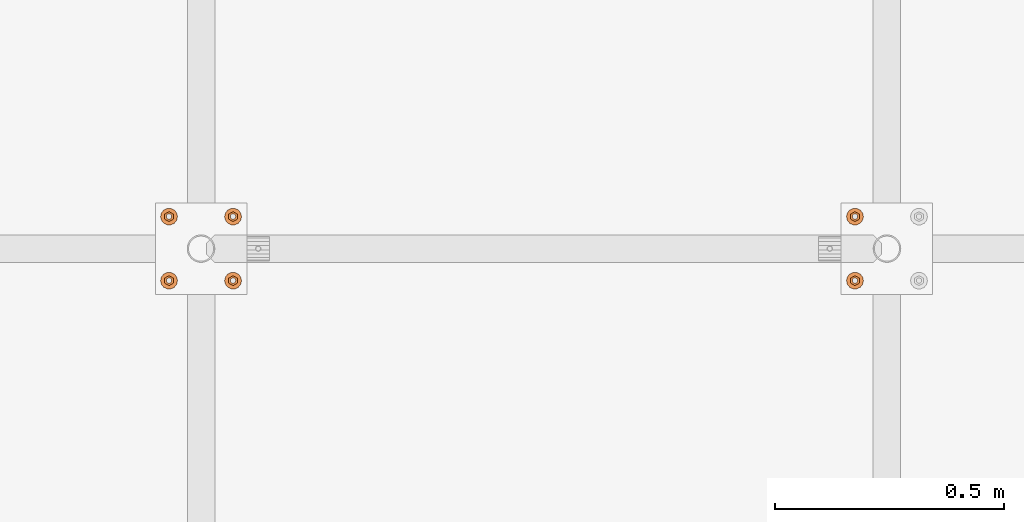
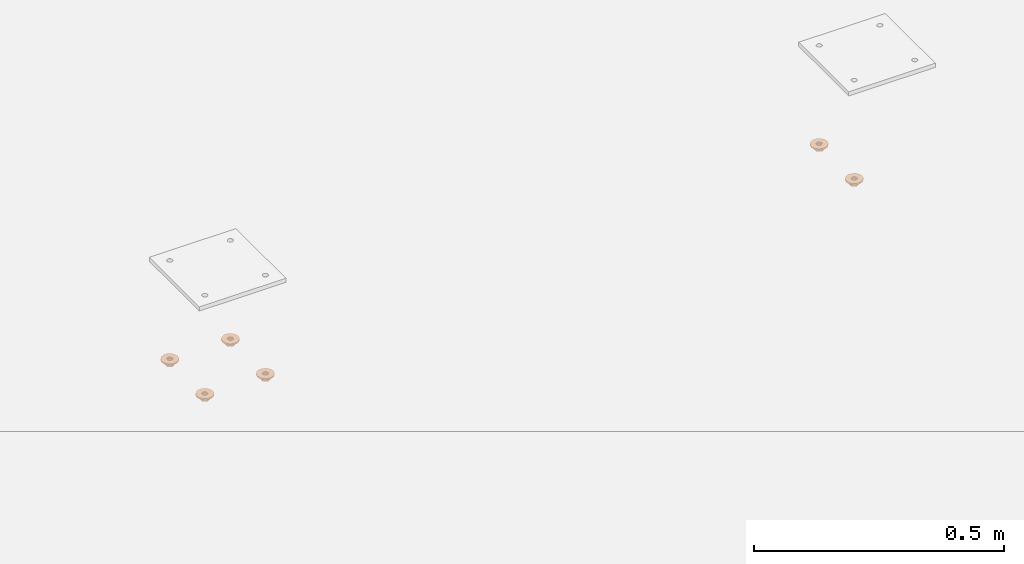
# One storey, part 26 of 30: 12 proxies.
"""IFC2X3 building model written with IfcOpenShell, lengths in millimetres."""

from ifc_helpers import new_model, entity, si_unit, converted_unit, origin_with_axes, place, context, project, spatial, faceted_brep, material, element, save


model = new_model("IFC2X3")

# Units and contexts
model_context = context("Model", 3, precision=1e-09, world=origin_with_axes())
ifc_project = project(units=[si_unit("LENGTHUNIT", "METRE", prefix="MILLI"), si_unit("AREAUNIT", "SQUARE_METRE"), si_unit("VOLUMEUNIT", "CUBIC_METRE"), converted_unit("PLANEANGLEUNIT", "DEGREE", entity("IfcPlaneAngleMeasure", 0.01745329), si_unit("PLANEANGLEUNIT", "RADIAN"), dimensions=[0, 0, 0, 0, 0, 0, 0])], contexts=[model_context])

# Site, building, storey
site_placement = place(None, origin_with_axes())
site = spatial("IfcSite", under=ifc_project, at=site_placement, Name="M?nsinger Stra?e, 81477 M?nchen", CompositionType="ELEMENT")
building_placement = place(site_placement, origin_with_axes())
building = spatial("IfcBuilding", under=site, at=building_placement, Name="Struktur 1", CompositionType="ELEMENT")
storey_placement = place(building_placement, origin_with_axes())
storey = spatial("IfcBuildingStorey", under=building, at=storey_placement, Name="Default Storey", CompositionType="ELEMENT", Elevation=0.0)

# Proxies
ifc_material = material(Name="Kein")
proxy_1_placement = place(None, origin_with_axes())
element("IfcBuildingElementProxy", 1, at=proxy_1_placement, inside=storey, material=ifc_material, ObjectType="-", context=model_context, shape_type="Brep", body=[
    faceted_brep([(7324.78055598, 3046.799376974, 6512.0), (7324.78055598, 3046.799376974, 6515.0), (7319.647193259, 3053.236410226, 6515.0), (7319.647193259, 3053.236410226, 6512.0), (7332.198480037, 3043.227093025, 6515.0), (7340.431754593, 3043.227093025, 6515.0), (7347.849678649, 3046.799376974, 6515.0), (7352.983041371, 3053.236410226, 6515.0), (7354.815117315, 3061.2632594, 6515.0), (7352.983041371, 3069.290108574, 6515.0), (7347.849678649, 3075.727141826, 6515.0), (7340.431754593, 3079.299425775, 6515.0), (7332.198480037, 3079.299425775, 6515.0), (7324.78055598, 3075.727141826, 6515.0), (7319.647193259, 3069.290108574, 6515.0), (7317.815117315, 3061.2632594, 6515.0), (7333.065117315, 3055.634094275, 6515.0), (7330.68595219, 3058.0132594, 6515.0), (7329.815117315, 3061.2632594, 6515.0), (7330.68595219, 3064.5132594, 6515.0), (7333.065117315, 3066.892424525, 6515.0), (7336.315117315, 3067.7632594, 6515.0), (7339.565117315, 3066.892424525, 6515.0), (7341.944282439, 3064.5132594, 6515.0), (7342.815117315, 3061.2632594, 6515.0), (7341.944282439, 3058.0132594, 6515.0), (7339.565117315, 3055.634094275, 6515.0), (7336.315117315, 3054.7632594, 6515.0), (7317.815117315, 3061.2632594, 6512.0), (7319.647193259, 3069.290108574, 6512.0), (7324.78055598, 3075.727141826, 6512.0), (7332.198480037, 3079.299425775, 6512.0), (7340.431754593, 3079.299425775, 6512.0), (7347.849678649, 3075.727141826, 6512.0), (7352.983041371, 3069.290108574, 6512.0), (7354.815117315, 3061.2632594, 6512.0), (7352.983041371, 3053.236410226, 6512.0), (7347.849678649, 3046.799376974, 6512.0), (7340.431754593, 3043.227093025, 6512.0), (7332.198480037, 3043.227093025, 6512.0), (7329.815117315, 3061.2632594, 6512.0), (7330.68595219, 3058.0132594, 6512.0), (7333.065117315, 3055.634094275, 6512.0), (7336.315117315, 3054.7632594, 6512.0), (7339.565117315, 3055.634094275, 6512.0), (7341.944282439, 3058.0132594, 6512.0), (7342.815117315, 3061.2632594, 6512.0), (7341.944282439, 3064.5132594, 6512.0), (7339.565117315, 3066.892424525, 6512.0), (7336.315117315, 3067.7632594, 6512.0), (7333.065117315, 3066.892424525, 6512.0), (7330.68595219, 3064.5132594, 6512.0)], [[[0, 1, 2, 3]], [[4, 5, 6, 7, 8, 9, 10, 11, 12, 13, 14, 15, 2, 1], [16, 17, 18, 19, 20, 21, 22, 23, 24, 25, 26, 27]], [[28, 29, 30, 31, 32, 33, 34, 35, 36, 37, 38, 39, 0, 3], [40, 41, 42, 43, 44, 45, 46, 47, 48, 49, 50, 51]], [[1, 0, 39, 4]], [[41, 17, 16, 42]], [[17, 41, 40, 18]], [[3, 2, 15, 28]], [[4, 39, 38, 5]], [[42, 16, 27, 43]], [[18, 40, 51, 19]], [[28, 15, 14, 29]], [[5, 38, 37, 6]], [[43, 27, 26, 44]], [[19, 51, 50, 20]], [[29, 14, 13, 30]], [[6, 37, 36, 7]], [[44, 26, 25, 45]], [[20, 50, 49, 21]], [[30, 13, 12, 31]], [[7, 36, 35, 8]], [[45, 25, 24, 46]], [[48, 22, 21, 49]], [[31, 12, 11, 32]], [[23, 47, 46, 24]], [[22, 48, 47, 23]], [[8, 35, 34, 9]], [[32, 11, 10, 33]], [[9, 34, 33, 10]]]),
])
proxy_2_placement = place(None, origin_with_axes())
element("IfcBuildingElementProxy", 2, at=proxy_2_placement, inside=storey, material=ifc_material, ObjectType="-", context=model_context, shape_type="Brep", body=[
    faceted_brep([(7330.315117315, 3061.2632594, 6502.0), (7330.315117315, 3061.2632594, 6512.0), (7331.118964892, 3058.2632594, 6512.0), (7331.118964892, 3058.2632594, 6502.0), (7333.315117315, 3056.067106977, 6512.0), (7333.315117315, 3056.067106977, 6502.0), (7331.118964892, 3064.2632594, 6502.0), (7331.118964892, 3064.2632594, 6512.0), (7326.815117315, 3066.748086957, 6512.0), (7326.815117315, 3055.778431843, 6512.0), (7336.315117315, 3050.293604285, 6512.0), (7345.815117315, 3055.778431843, 6512.0), (7345.815117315, 3066.748086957, 6512.0), (7336.315117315, 3072.232914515, 6512.0), (7333.315117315, 3066.459411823, 6512.0), (7336.315117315, 3067.2632594, 6512.0), (7339.315117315, 3066.459411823, 6512.0), (7341.511269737, 3064.2632594, 6512.0), (7342.315117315, 3061.2632594, 6512.0), (7341.511269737, 3058.2632594, 6512.0), (7339.315117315, 3056.067106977, 6512.0), (7336.315117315, 3055.2632594, 6512.0), (7326.815117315, 3066.748086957, 6502.0), (7336.315117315, 3072.232914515, 6502.0), (7345.815117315, 3066.748086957, 6502.0), (7345.815117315, 3055.778431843, 6502.0), (7336.315117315, 3050.293604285, 6502.0), (7326.815117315, 3055.778431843, 6502.0), (7333.315117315, 3066.459411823, 6502.0), (7336.315117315, 3055.2632594, 6502.0), (7336.315117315, 3067.2632594, 6502.0), (7339.315117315, 3056.067106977, 6502.0), (7339.315117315, 3066.459411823, 6502.0), (7341.511269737, 3058.2632594, 6502.0), (7341.511269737, 3064.2632594, 6502.0), (7342.315117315, 3061.2632594, 6502.0)], [[[0, 1, 2, 3]], [[3, 2, 4, 5]], [[1, 0, 6, 7]], [[8, 9, 10, 11, 12, 13], [7, 14, 15, 16, 17, 18, 19, 20, 21, 4, 2, 1]], [[22, 23, 24, 25, 26, 27]], [[7, 6, 28, 14]], [[22, 27, 9, 8]], [[5, 4, 21, 29]], [[10, 9, 27, 26]], [[14, 28, 30, 15]], [[23, 22, 8, 13]], [[29, 21, 20, 31]], [[11, 10, 26, 25]], [[15, 30, 32, 16]], [[24, 23, 13, 12]], [[31, 20, 19, 33]], [[25, 24, 12, 11]], [[16, 32, 34, 17]], [[33, 19, 18, 35]], [[17, 34, 35, 18]]]),
])
proxy_3_placement = place(None, origin_with_axes())
element("IfcBuildingElementProxy", 3, at=proxy_3_placement, inside=storey, material=ifc_material, ObjectType="-", context=model_context, shape_type="Brep", body=[
    faceted_brep([(7330.315117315, 2921.2632594, 6502.0), (7330.315117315, 2921.2632594, 6512.0), (7331.118964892, 2918.2632594, 6512.0), (7331.118964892, 2918.2632594, 6502.0), (7333.315117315, 2916.067106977, 6512.0), (7333.315117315, 2916.067106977, 6502.0), (7331.118964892, 2924.2632594, 6502.0), (7331.118964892, 2924.2632594, 6512.0), (7326.815117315, 2926.748086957, 6512.0), (7326.815117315, 2915.778431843, 6512.0), (7336.315117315, 2910.293604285, 6512.0), (7345.815117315, 2915.778431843, 6512.0), (7345.815117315, 2926.748086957, 6512.0), (7336.315117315, 2932.232914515, 6512.0), (7333.315117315, 2926.459411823, 6512.0), (7336.315117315, 2927.2632594, 6512.0), (7339.315117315, 2926.459411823, 6512.0), (7341.511269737, 2924.2632594, 6512.0), (7342.315117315, 2921.2632594, 6512.0), (7341.511269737, 2918.2632594, 6512.0), (7339.315117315, 2916.067106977, 6512.0), (7336.315117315, 2915.2632594, 6512.0), (7326.815117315, 2926.748086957, 6502.0), (7336.315117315, 2932.232914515, 6502.0), (7345.815117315, 2926.748086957, 6502.0), (7345.815117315, 2915.778431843, 6502.0), (7336.315117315, 2910.293604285, 6502.0), (7326.815117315, 2915.778431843, 6502.0), (7333.315117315, 2926.459411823, 6502.0), (7336.315117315, 2915.2632594, 6502.0), (7336.315117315, 2927.2632594, 6502.0), (7339.315117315, 2916.067106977, 6502.0), (7339.315117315, 2926.459411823, 6502.0), (7341.511269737, 2918.2632594, 6502.0), (7341.511269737, 2924.2632594, 6502.0), (7342.315117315, 2921.2632594, 6502.0)], [[[0, 1, 2, 3]], [[3, 2, 4, 5]], [[1, 0, 6, 7]], [[8, 9, 10, 11, 12, 13], [7, 14, 15, 16, 17, 18, 19, 20, 21, 4, 2, 1]], [[22, 23, 24, 25, 26, 27]], [[7, 6, 28, 14]], [[22, 27, 9, 8]], [[5, 4, 21, 29]], [[10, 9, 27, 26]], [[14, 28, 30, 15]], [[23, 22, 8, 13]], [[29, 21, 20, 31]], [[11, 10, 26, 25]], [[15, 30, 32, 16]], [[24, 23, 13, 12]], [[31, 20, 19, 33]], [[25, 24, 12, 11]], [[16, 32, 34, 17]], [[33, 19, 18, 35]], [[17, 34, 35, 18]]]),
])
proxy_4_placement = place(None, origin_with_axes())
element("IfcBuildingElementProxy", 4, at=proxy_4_placement, inside=storey, material=ifc_material, ObjectType="-", context=model_context, shape_type="Brep", body=[
    faceted_brep([(7324.78055598, 2906.799376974, 6512.0), (7324.78055598, 2906.799376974, 6515.0), (7319.647193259, 2913.236410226, 6515.0), (7319.647193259, 2913.236410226, 6512.0), (7332.198480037, 2903.227093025, 6515.0), (7340.431754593, 2903.227093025, 6515.0), (7347.849678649, 2906.799376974, 6515.0), (7352.983041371, 2913.236410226, 6515.0), (7354.815117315, 2921.2632594, 6515.0), (7352.983041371, 2929.290108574, 6515.0), (7347.849678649, 2935.727141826, 6515.0), (7340.431754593, 2939.299425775, 6515.0), (7332.198480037, 2939.299425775, 6515.0), (7324.78055598, 2935.727141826, 6515.0), (7319.647193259, 2929.290108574, 6515.0), (7317.815117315, 2921.2632594, 6515.0), (7333.065117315, 2915.634094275, 6515.0), (7330.68595219, 2918.0132594, 6515.0), (7329.815117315, 2921.2632594, 6515.0), (7330.68595219, 2924.5132594, 6515.0), (7333.065117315, 2926.892424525, 6515.0), (7336.315117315, 2927.7632594, 6515.0), (7339.565117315, 2926.892424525, 6515.0), (7341.944282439, 2924.5132594, 6515.0), (7342.815117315, 2921.2632594, 6515.0), (7341.944282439, 2918.0132594, 6515.0), (7339.565117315, 2915.634094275, 6515.0), (7336.315117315, 2914.7632594, 6515.0), (7317.815117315, 2921.2632594, 6512.0), (7319.647193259, 2929.290108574, 6512.0), (7324.78055598, 2935.727141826, 6512.0), (7332.198480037, 2939.299425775, 6512.0), (7340.431754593, 2939.299425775, 6512.0), (7347.849678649, 2935.727141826, 6512.0), (7352.983041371, 2929.290108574, 6512.0), (7354.815117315, 2921.2632594, 6512.0), (7352.983041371, 2913.236410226, 6512.0), (7347.849678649, 2906.799376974, 6512.0), (7340.431754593, 2903.227093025, 6512.0), (7332.198480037, 2903.227093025, 6512.0), (7329.815117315, 2921.2632594, 6512.0), (7330.68595219, 2918.0132594, 6512.0), (7333.065117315, 2915.634094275, 6512.0), (7336.315117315, 2914.7632594, 6512.0), (7339.565117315, 2915.634094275, 6512.0), (7341.944282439, 2918.0132594, 6512.0), (7342.815117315, 2921.2632594, 6512.0), (7341.944282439, 2924.5132594, 6512.0), (7339.565117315, 2926.892424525, 6512.0), (7336.315117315, 2927.7632594, 6512.0), (7333.065117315, 2926.892424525, 6512.0), (7330.68595219, 2924.5132594, 6512.0)], [[[0, 1, 2, 3]], [[4, 5, 6, 7, 8, 9, 10, 11, 12, 13, 14, 15, 2, 1], [16, 17, 18, 19, 20, 21, 22, 23, 24, 25, 26, 27]], [[28, 29, 30, 31, 32, 33, 34, 35, 36, 37, 38, 39, 0, 3], [40, 41, 42, 43, 44, 45, 46, 47, 48, 49, 50, 51]], [[1, 0, 39, 4]], [[41, 17, 16, 42]], [[17, 41, 40, 18]], [[3, 2, 15, 28]], [[4, 39, 38, 5]], [[42, 16, 27, 43]], [[18, 40, 51, 19]], [[28, 15, 14, 29]], [[5, 38, 37, 6]], [[43, 27, 26, 44]], [[19, 51, 50, 20]], [[29, 14, 13, 30]], [[6, 37, 36, 7]], [[44, 26, 25, 45]], [[20, 50, 49, 21]], [[30, 13, 12, 31]], [[7, 36, 35, 8]], [[45, 25, 24, 46]], [[48, 22, 21, 49]], [[31, 12, 11, 32]], [[23, 47, 46, 24]], [[22, 48, 47, 23]], [[8, 35, 34, 9]], [[32, 11, 10, 33]], [[9, 34, 33, 10]]]),
])
proxy_5_placement = place(None, origin_with_axes())
element("IfcBuildingElementProxy", 5, at=proxy_5_placement, inside=storey, material=ifc_material, ObjectType="-", context=model_context, shape_type="Brep", body=[
    faceted_brep([(5824.78055598, 3046.799376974, 6512.0), (5824.78055598, 3046.799376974, 6515.0), (5819.647193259, 3053.236410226, 6515.0), (5819.647193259, 3053.236410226, 6512.0), (5832.198480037, 3043.227093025, 6515.0), (5840.431754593, 3043.227093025, 6515.0), (5847.849678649, 3046.799376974, 6515.0), (5852.983041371, 3053.236410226, 6515.0), (5854.815117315, 3061.2632594, 6515.0), (5852.983041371, 3069.290108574, 6515.0), (5847.849678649, 3075.727141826, 6515.0), (5840.431754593, 3079.299425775, 6515.0), (5832.198480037, 3079.299425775, 6515.0), (5824.78055598, 3075.727141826, 6515.0), (5819.647193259, 3069.290108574, 6515.0), (5817.815117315, 3061.2632594, 6515.0), (5833.065117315, 3055.634094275, 6515.0), (5830.68595219, 3058.0132594, 6515.0), (5829.815117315, 3061.2632594, 6515.0), (5830.68595219, 3064.5132594, 6515.0), (5833.065117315, 3066.892424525, 6515.0), (5836.315117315, 3067.7632594, 6515.0), (5839.565117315, 3066.892424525, 6515.0), (5841.944282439, 3064.5132594, 6515.0), (5842.815117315, 3061.2632594, 6515.0), (5841.944282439, 3058.0132594, 6515.0), (5839.565117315, 3055.634094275, 6515.0), (5836.315117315, 3054.7632594, 6515.0), (5817.815117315, 3061.2632594, 6512.0), (5819.647193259, 3069.290108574, 6512.0), (5824.78055598, 3075.727141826, 6512.0), (5832.198480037, 3079.299425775, 6512.0), (5840.431754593, 3079.299425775, 6512.0), (5847.849678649, 3075.727141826, 6512.0), (5852.983041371, 3069.290108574, 6512.0), (5854.815117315, 3061.2632594, 6512.0), (5852.983041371, 3053.236410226, 6512.0), (5847.849678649, 3046.799376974, 6512.0), (5840.431754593, 3043.227093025, 6512.0), (5832.198480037, 3043.227093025, 6512.0), (5829.815117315, 3061.2632594, 6512.0), (5830.68595219, 3058.0132594, 6512.0), (5833.065117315, 3055.634094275, 6512.0), (5836.315117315, 3054.7632594, 6512.0), (5839.565117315, 3055.634094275, 6512.0), (5841.944282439, 3058.0132594, 6512.0), (5842.815117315, 3061.2632594, 6512.0), (5841.944282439, 3064.5132594, 6512.0), (5839.565117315, 3066.892424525, 6512.0), (5836.315117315, 3067.7632594, 6512.0), (5833.065117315, 3066.892424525, 6512.0), (5830.68595219, 3064.5132594, 6512.0)], [[[0, 1, 2, 3]], [[4, 5, 6, 7, 8, 9, 10, 11, 12, 13, 14, 15, 2, 1], [16, 17, 18, 19, 20, 21, 22, 23, 24, 25, 26, 27]], [[28, 29, 30, 31, 32, 33, 34, 35, 36, 37, 38, 39, 0, 3], [40, 41, 42, 43, 44, 45, 46, 47, 48, 49, 50, 51]], [[1, 0, 39, 4]], [[41, 17, 16, 42]], [[17, 41, 40, 18]], [[3, 2, 15, 28]], [[4, 39, 38, 5]], [[42, 16, 27, 43]], [[18, 40, 51, 19]], [[28, 15, 14, 29]], [[5, 38, 37, 6]], [[43, 27, 26, 44]], [[19, 51, 50, 20]], [[29, 14, 13, 30]], [[6, 37, 36, 7]], [[44, 26, 25, 45]], [[20, 50, 49, 21]], [[30, 13, 12, 31]], [[7, 36, 35, 8]], [[45, 25, 24, 46]], [[48, 22, 21, 49]], [[31, 12, 11, 32]], [[23, 47, 46, 24]], [[22, 48, 47, 23]], [[8, 35, 34, 9]], [[32, 11, 10, 33]], [[9, 34, 33, 10]]]),
])
proxy_6_placement = place(None, origin_with_axes())
element("IfcBuildingElementProxy", 6, at=proxy_6_placement, inside=storey, material=ifc_material, ObjectType="-", context=model_context, shape_type="Brep", body=[
    faceted_brep([(5830.315117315, 3061.2632594, 6502.0), (5830.315117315, 3061.2632594, 6512.0), (5831.118964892, 3058.2632594, 6512.0), (5831.118964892, 3058.2632594, 6502.0), (5833.315117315, 3056.067106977, 6512.0), (5833.315117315, 3056.067106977, 6502.0), (5831.118964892, 3064.2632594, 6502.0), (5831.118964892, 3064.2632594, 6512.0), (5826.815117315, 3066.748086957, 6512.0), (5826.815117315, 3055.778431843, 6512.0), (5836.315117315, 3050.293604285, 6512.0), (5845.815117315, 3055.778431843, 6512.0), (5845.815117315, 3066.748086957, 6512.0), (5836.315117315, 3072.232914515, 6512.0), (5833.315117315, 3066.459411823, 6512.0), (5836.315117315, 3067.2632594, 6512.0), (5839.315117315, 3066.459411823, 6512.0), (5841.511269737, 3064.2632594, 6512.0), (5842.315117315, 3061.2632594, 6512.0), (5841.511269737, 3058.2632594, 6512.0), (5839.315117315, 3056.067106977, 6512.0), (5836.315117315, 3055.2632594, 6512.0), (5826.815117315, 3066.748086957, 6502.0), (5836.315117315, 3072.232914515, 6502.0), (5845.815117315, 3066.748086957, 6502.0), (5845.815117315, 3055.778431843, 6502.0), (5836.315117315, 3050.293604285, 6502.0), (5826.815117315, 3055.778431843, 6502.0), (5833.315117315, 3066.459411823, 6502.0), (5836.315117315, 3055.2632594, 6502.0), (5836.315117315, 3067.2632594, 6502.0), (5839.315117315, 3056.067106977, 6502.0), (5839.315117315, 3066.459411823, 6502.0), (5841.511269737, 3058.2632594, 6502.0), (5841.511269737, 3064.2632594, 6502.0), (5842.315117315, 3061.2632594, 6502.0)], [[[0, 1, 2, 3]], [[3, 2, 4, 5]], [[1, 0, 6, 7]], [[8, 9, 10, 11, 12, 13], [7, 14, 15, 16, 17, 18, 19, 20, 21, 4, 2, 1]], [[22, 23, 24, 25, 26, 27]], [[7, 6, 28, 14]], [[22, 27, 9, 8]], [[5, 4, 21, 29]], [[10, 9, 27, 26]], [[14, 28, 30, 15]], [[23, 22, 8, 13]], [[29, 21, 20, 31]], [[11, 10, 26, 25]], [[15, 30, 32, 16]], [[24, 23, 13, 12]], [[31, 20, 19, 33]], [[25, 24, 12, 11]], [[16, 32, 34, 17]], [[33, 19, 18, 35]], [[17, 34, 35, 18]]]),
])
proxy_7_placement = place(None, origin_with_axes())
element("IfcBuildingElementProxy", 7, at=proxy_7_placement, inside=storey, material=ifc_material, ObjectType="-", context=model_context, shape_type="Brep", body=[
    faceted_brep([(5970.315117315, 3061.2632594, 6502.0), (5970.315117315, 3061.2632594, 6512.0), (5971.118964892, 3058.2632594, 6512.0), (5971.118964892, 3058.2632594, 6502.0), (5973.315117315, 3056.067106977, 6512.0), (5973.315117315, 3056.067106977, 6502.0), (5971.118964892, 3064.2632594, 6502.0), (5971.118964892, 3064.2632594, 6512.0), (5966.815117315, 3066.748086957, 6512.0), (5966.815117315, 3055.778431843, 6512.0), (5976.315117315, 3050.293604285, 6512.0), (5985.815117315, 3055.778431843, 6512.0), (5985.815117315, 3066.748086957, 6512.0), (5976.315117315, 3072.232914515, 6512.0), (5973.315117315, 3066.459411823, 6512.0), (5976.315117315, 3067.2632594, 6512.0), (5979.315117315, 3066.459411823, 6512.0), (5981.511269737, 3064.2632594, 6512.0), (5982.315117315, 3061.2632594, 6512.0), (5981.511269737, 3058.2632594, 6512.0), (5979.315117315, 3056.067106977, 6512.0), (5976.315117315, 3055.2632594, 6512.0), (5966.815117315, 3066.748086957, 6502.0), (5976.315117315, 3072.232914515, 6502.0), (5985.815117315, 3066.748086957, 6502.0), (5985.815117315, 3055.778431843, 6502.0), (5976.315117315, 3050.293604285, 6502.0), (5966.815117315, 3055.778431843, 6502.0), (5973.315117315, 3066.459411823, 6502.0), (5976.315117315, 3055.2632594, 6502.0), (5976.315117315, 3067.2632594, 6502.0), (5979.315117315, 3056.067106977, 6502.0), (5979.315117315, 3066.459411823, 6502.0), (5981.511269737, 3058.2632594, 6502.0), (5981.511269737, 3064.2632594, 6502.0), (5982.315117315, 3061.2632594, 6502.0)], [[[0, 1, 2, 3]], [[3, 2, 4, 5]], [[1, 0, 6, 7]], [[8, 9, 10, 11, 12, 13], [7, 14, 15, 16, 17, 18, 19, 20, 21, 4, 2, 1]], [[22, 23, 24, 25, 26, 27]], [[7, 6, 28, 14]], [[22, 27, 9, 8]], [[5, 4, 21, 29]], [[10, 9, 27, 26]], [[14, 28, 30, 15]], [[23, 22, 8, 13]], [[29, 21, 20, 31]], [[11, 10, 26, 25]], [[15, 30, 32, 16]], [[24, 23, 13, 12]], [[31, 20, 19, 33]], [[25, 24, 12, 11]], [[16, 32, 34, 17]], [[33, 19, 18, 35]], [[17, 34, 35, 18]]]),
])
proxy_8_placement = place(None, origin_with_axes())
element("IfcBuildingElementProxy", 8, at=proxy_8_placement, inside=storey, material=ifc_material, ObjectType="-", context=model_context, shape_type="Brep", body=[
    faceted_brep([(5964.78055598, 3046.799376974, 6512.0), (5964.78055598, 3046.799376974, 6515.0), (5959.647193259, 3053.236410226, 6515.0), (5959.647193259, 3053.236410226, 6512.0), (5972.198480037, 3043.227093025, 6515.0), (5980.431754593, 3043.227093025, 6515.0), (5987.849678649, 3046.799376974, 6515.0), (5992.983041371, 3053.236410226, 6515.0), (5994.815117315, 3061.2632594, 6515.0), (5992.983041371, 3069.290108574, 6515.0), (5987.849678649, 3075.727141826, 6515.0), (5980.431754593, 3079.299425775, 6515.0), (5972.198480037, 3079.299425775, 6515.0), (5964.78055598, 3075.727141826, 6515.0), (5959.647193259, 3069.290108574, 6515.0), (5957.815117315, 3061.2632594, 6515.0), (5973.065117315, 3055.634094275, 6515.0), (5970.68595219, 3058.0132594, 6515.0), (5969.815117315, 3061.2632594, 6515.0), (5970.68595219, 3064.5132594, 6515.0), (5973.065117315, 3066.892424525, 6515.0), (5976.315117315, 3067.7632594, 6515.0), (5979.565117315, 3066.892424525, 6515.0), (5981.944282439, 3064.5132594, 6515.0), (5982.815117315, 3061.2632594, 6515.0), (5981.944282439, 3058.0132594, 6515.0), (5979.565117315, 3055.634094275, 6515.0), (5976.315117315, 3054.7632594, 6515.0), (5957.815117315, 3061.2632594, 6512.0), (5959.647193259, 3069.290108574, 6512.0), (5964.78055598, 3075.727141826, 6512.0), (5972.198480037, 3079.299425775, 6512.0), (5980.431754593, 3079.299425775, 6512.0), (5987.849678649, 3075.727141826, 6512.0), (5992.983041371, 3069.290108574, 6512.0), (5994.815117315, 3061.2632594, 6512.0), (5992.983041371, 3053.236410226, 6512.0), (5987.849678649, 3046.799376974, 6512.0), (5980.431754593, 3043.227093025, 6512.0), (5972.198480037, 3043.227093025, 6512.0), (5969.815117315, 3061.2632594, 6512.0), (5970.68595219, 3058.0132594, 6512.0), (5973.065117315, 3055.634094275, 6512.0), (5976.315117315, 3054.7632594, 6512.0), (5979.565117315, 3055.634094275, 6512.0), (5981.944282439, 3058.0132594, 6512.0), (5982.815117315, 3061.2632594, 6512.0), (5981.944282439, 3064.5132594, 6512.0), (5979.565117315, 3066.892424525, 6512.0), (5976.315117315, 3067.7632594, 6512.0), (5973.065117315, 3066.892424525, 6512.0), (5970.68595219, 3064.5132594, 6512.0)], [[[0, 1, 2, 3]], [[4, 5, 6, 7, 8, 9, 10, 11, 12, 13, 14, 15, 2, 1], [16, 17, 18, 19, 20, 21, 22, 23, 24, 25, 26, 27]], [[28, 29, 30, 31, 32, 33, 34, 35, 36, 37, 38, 39, 0, 3], [40, 41, 42, 43, 44, 45, 46, 47, 48, 49, 50, 51]], [[1, 0, 39, 4]], [[41, 17, 16, 42]], [[17, 41, 40, 18]], [[3, 2, 15, 28]], [[4, 39, 38, 5]], [[42, 16, 27, 43]], [[18, 40, 51, 19]], [[28, 15, 14, 29]], [[5, 38, 37, 6]], [[43, 27, 26, 44]], [[19, 51, 50, 20]], [[29, 14, 13, 30]], [[6, 37, 36, 7]], [[44, 26, 25, 45]], [[20, 50, 49, 21]], [[30, 13, 12, 31]], [[7, 36, 35, 8]], [[45, 25, 24, 46]], [[48, 22, 21, 49]], [[31, 12, 11, 32]], [[23, 47, 46, 24]], [[22, 48, 47, 23]], [[8, 35, 34, 9]], [[32, 11, 10, 33]], [[9, 34, 33, 10]]]),
])
proxy_9_placement = place(None, origin_with_axes())
element("IfcBuildingElementProxy", 9, at=proxy_9_placement, inside=storey, material=ifc_material, ObjectType="-", context=model_context, shape_type="Brep", body=[
    faceted_brep([(5964.78055598, 2906.799376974, 6512.0), (5964.78055598, 2906.799376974, 6515.0), (5959.647193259, 2913.236410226, 6515.0), (5959.647193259, 2913.236410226, 6512.0), (5972.198480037, 2903.227093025, 6515.0), (5980.431754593, 2903.227093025, 6515.0), (5987.849678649, 2906.799376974, 6515.0), (5992.983041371, 2913.236410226, 6515.0), (5994.815117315, 2921.2632594, 6515.0), (5992.983041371, 2929.290108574, 6515.0), (5987.849678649, 2935.727141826, 6515.0), (5980.431754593, 2939.299425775, 6515.0), (5972.198480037, 2939.299425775, 6515.0), (5964.78055598, 2935.727141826, 6515.0), (5959.647193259, 2929.290108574, 6515.0), (5957.815117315, 2921.2632594, 6515.0), (5973.065117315, 2915.634094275, 6515.0), (5970.68595219, 2918.0132594, 6515.0), (5969.815117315, 2921.2632594, 6515.0), (5970.68595219, 2924.5132594, 6515.0), (5973.065117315, 2926.892424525, 6515.0), (5976.315117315, 2927.7632594, 6515.0), (5979.565117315, 2926.892424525, 6515.0), (5981.944282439, 2924.5132594, 6515.0), (5982.815117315, 2921.2632594, 6515.0), (5981.944282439, 2918.0132594, 6515.0), (5979.565117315, 2915.634094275, 6515.0), (5976.315117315, 2914.7632594, 6515.0), (5957.815117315, 2921.2632594, 6512.0), (5959.647193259, 2929.290108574, 6512.0), (5964.78055598, 2935.727141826, 6512.0), (5972.198480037, 2939.299425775, 6512.0), (5980.431754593, 2939.299425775, 6512.0), (5987.849678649, 2935.727141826, 6512.0), (5992.983041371, 2929.290108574, 6512.0), (5994.815117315, 2921.2632594, 6512.0), (5992.983041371, 2913.236410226, 6512.0), (5987.849678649, 2906.799376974, 6512.0), (5980.431754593, 2903.227093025, 6512.0), (5972.198480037, 2903.227093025, 6512.0), (5969.815117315, 2921.2632594, 6512.0), (5970.68595219, 2918.0132594, 6512.0), (5973.065117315, 2915.634094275, 6512.0), (5976.315117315, 2914.7632594, 6512.0), (5979.565117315, 2915.634094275, 6512.0), (5981.944282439, 2918.0132594, 6512.0), (5982.815117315, 2921.2632594, 6512.0), (5981.944282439, 2924.5132594, 6512.0), (5979.565117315, 2926.892424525, 6512.0), (5976.315117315, 2927.7632594, 6512.0), (5973.065117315, 2926.892424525, 6512.0), (5970.68595219, 2924.5132594, 6512.0)], [[[0, 1, 2, 3]], [[4, 5, 6, 7, 8, 9, 10, 11, 12, 13, 14, 15, 2, 1], [16, 17, 18, 19, 20, 21, 22, 23, 24, 25, 26, 27]], [[28, 29, 30, 31, 32, 33, 34, 35, 36, 37, 38, 39, 0, 3], [40, 41, 42, 43, 44, 45, 46, 47, 48, 49, 50, 51]], [[1, 0, 39, 4]], [[41, 17, 16, 42]], [[17, 41, 40, 18]], [[3, 2, 15, 28]], [[4, 39, 38, 5]], [[42, 16, 27, 43]], [[18, 40, 51, 19]], [[28, 15, 14, 29]], [[5, 38, 37, 6]], [[43, 27, 26, 44]], [[19, 51, 50, 20]], [[29, 14, 13, 30]], [[6, 37, 36, 7]], [[44, 26, 25, 45]], [[20, 50, 49, 21]], [[30, 13, 12, 31]], [[7, 36, 35, 8]], [[45, 25, 24, 46]], [[48, 22, 21, 49]], [[31, 12, 11, 32]], [[23, 47, 46, 24]], [[22, 48, 47, 23]], [[8, 35, 34, 9]], [[32, 11, 10, 33]], [[9, 34, 33, 10]]]),
])
proxy_10_placement = place(None, origin_with_axes())
element("IfcBuildingElementProxy", 10, at=proxy_10_placement, inside=storey, material=ifc_material, ObjectType="-", context=model_context, shape_type="Brep", body=[
    faceted_brep([(5970.315117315, 2921.2632594, 6502.0), (5970.315117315, 2921.2632594, 6512.0), (5971.118964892, 2918.2632594, 6512.0), (5971.118964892, 2918.2632594, 6502.0), (5973.315117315, 2916.067106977, 6512.0), (5973.315117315, 2916.067106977, 6502.0), (5971.118964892, 2924.2632594, 6502.0), (5971.118964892, 2924.2632594, 6512.0), (5966.815117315, 2926.748086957, 6512.0), (5966.815117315, 2915.778431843, 6512.0), (5976.315117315, 2910.293604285, 6512.0), (5985.815117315, 2915.778431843, 6512.0), (5985.815117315, 2926.748086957, 6512.0), (5976.315117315, 2932.232914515, 6512.0), (5973.315117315, 2926.459411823, 6512.0), (5976.315117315, 2927.2632594, 6512.0), (5979.315117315, 2926.459411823, 6512.0), (5981.511269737, 2924.2632594, 6512.0), (5982.315117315, 2921.2632594, 6512.0), (5981.511269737, 2918.2632594, 6512.0), (5979.315117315, 2916.067106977, 6512.0), (5976.315117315, 2915.2632594, 6512.0), (5966.815117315, 2926.748086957, 6502.0), (5976.315117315, 2932.232914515, 6502.0), (5985.815117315, 2926.748086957, 6502.0), (5985.815117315, 2915.778431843, 6502.0), (5976.315117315, 2910.293604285, 6502.0), (5966.815117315, 2915.778431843, 6502.0), (5973.315117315, 2926.459411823, 6502.0), (5976.315117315, 2915.2632594, 6502.0), (5976.315117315, 2927.2632594, 6502.0), (5979.315117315, 2916.067106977, 6502.0), (5979.315117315, 2926.459411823, 6502.0), (5981.511269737, 2918.2632594, 6502.0), (5981.511269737, 2924.2632594, 6502.0), (5982.315117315, 2921.2632594, 6502.0)], [[[0, 1, 2, 3]], [[3, 2, 4, 5]], [[1, 0, 6, 7]], [[8, 9, 10, 11, 12, 13], [7, 14, 15, 16, 17, 18, 19, 20, 21, 4, 2, 1]], [[22, 23, 24, 25, 26, 27]], [[7, 6, 28, 14]], [[22, 27, 9, 8]], [[5, 4, 21, 29]], [[10, 9, 27, 26]], [[14, 28, 30, 15]], [[23, 22, 8, 13]], [[29, 21, 20, 31]], [[11, 10, 26, 25]], [[15, 30, 32, 16]], [[24, 23, 13, 12]], [[31, 20, 19, 33]], [[25, 24, 12, 11]], [[16, 32, 34, 17]], [[33, 19, 18, 35]], [[17, 34, 35, 18]]]),
])
proxy_11_placement = place(None, origin_with_axes())
element("IfcBuildingElementProxy", 11, at=proxy_11_placement, inside=storey, material=ifc_material, ObjectType="-", context=model_context, shape_type="Brep", body=[
    faceted_brep([(5830.315117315, 2921.2632594, 6502.0), (5830.315117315, 2921.2632594, 6512.0), (5831.118964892, 2918.2632594, 6512.0), (5831.118964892, 2918.2632594, 6502.0), (5833.315117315, 2916.067106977, 6512.0), (5833.315117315, 2916.067106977, 6502.0), (5831.118964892, 2924.2632594, 6502.0), (5831.118964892, 2924.2632594, 6512.0), (5826.815117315, 2926.748086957, 6512.0), (5826.815117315, 2915.778431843, 6512.0), (5836.315117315, 2910.293604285, 6512.0), (5845.815117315, 2915.778431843, 6512.0), (5845.815117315, 2926.748086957, 6512.0), (5836.315117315, 2932.232914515, 6512.0), (5833.315117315, 2926.459411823, 6512.0), (5836.315117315, 2927.2632594, 6512.0), (5839.315117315, 2926.459411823, 6512.0), (5841.511269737, 2924.2632594, 6512.0), (5842.315117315, 2921.2632594, 6512.0), (5841.511269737, 2918.2632594, 6512.0), (5839.315117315, 2916.067106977, 6512.0), (5836.315117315, 2915.2632594, 6512.0), (5826.815117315, 2926.748086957, 6502.0), (5836.315117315, 2932.232914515, 6502.0), (5845.815117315, 2926.748086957, 6502.0), (5845.815117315, 2915.778431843, 6502.0), (5836.315117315, 2910.293604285, 6502.0), (5826.815117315, 2915.778431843, 6502.0), (5833.315117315, 2926.459411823, 6502.0), (5836.315117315, 2915.2632594, 6502.0), (5836.315117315, 2927.2632594, 6502.0), (5839.315117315, 2916.067106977, 6502.0), (5839.315117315, 2926.459411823, 6502.0), (5841.511269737, 2918.2632594, 6502.0), (5841.511269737, 2924.2632594, 6502.0), (5842.315117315, 2921.2632594, 6502.0)], [[[0, 1, 2, 3]], [[3, 2, 4, 5]], [[1, 0, 6, 7]], [[8, 9, 10, 11, 12, 13], [7, 14, 15, 16, 17, 18, 19, 20, 21, 4, 2, 1]], [[22, 23, 24, 25, 26, 27]], [[7, 6, 28, 14]], [[22, 27, 9, 8]], [[5, 4, 21, 29]], [[10, 9, 27, 26]], [[14, 28, 30, 15]], [[23, 22, 8, 13]], [[29, 21, 20, 31]], [[11, 10, 26, 25]], [[15, 30, 32, 16]], [[24, 23, 13, 12]], [[31, 20, 19, 33]], [[25, 24, 12, 11]], [[16, 32, 34, 17]], [[33, 19, 18, 35]], [[17, 34, 35, 18]]]),
])
proxy_12_placement = place(None, origin_with_axes())
element("IfcBuildingElementProxy", 12, at=proxy_12_placement, inside=storey, material=ifc_material, ObjectType="-", context=model_context, shape_type="Brep", body=[
    faceted_brep([(5824.78055598, 2906.799376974, 6512.0), (5824.78055598, 2906.799376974, 6515.0), (5819.647193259, 2913.236410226, 6515.0), (5819.647193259, 2913.236410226, 6512.0), (5832.198480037, 2903.227093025, 6515.0), (5840.431754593, 2903.227093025, 6515.0), (5847.849678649, 2906.799376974, 6515.0), (5852.983041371, 2913.236410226, 6515.0), (5854.815117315, 2921.2632594, 6515.0), (5852.983041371, 2929.290108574, 6515.0), (5847.849678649, 2935.727141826, 6515.0), (5840.431754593, 2939.299425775, 6515.0), (5832.198480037, 2939.299425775, 6515.0), (5824.78055598, 2935.727141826, 6515.0), (5819.647193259, 2929.290108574, 6515.0), (5817.815117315, 2921.2632594, 6515.0), (5833.065117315, 2915.634094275, 6515.0), (5830.68595219, 2918.0132594, 6515.0), (5829.815117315, 2921.2632594, 6515.0), (5830.68595219, 2924.5132594, 6515.0), (5833.065117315, 2926.892424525, 6515.0), (5836.315117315, 2927.7632594, 6515.0), (5839.565117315, 2926.892424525, 6515.0), (5841.944282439, 2924.5132594, 6515.0), (5842.815117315, 2921.2632594, 6515.0), (5841.944282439, 2918.0132594, 6515.0), (5839.565117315, 2915.634094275, 6515.0), (5836.315117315, 2914.7632594, 6515.0), (5817.815117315, 2921.2632594, 6512.0), (5819.647193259, 2929.290108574, 6512.0), (5824.78055598, 2935.727141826, 6512.0), (5832.198480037, 2939.299425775, 6512.0), (5840.431754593, 2939.299425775, 6512.0), (5847.849678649, 2935.727141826, 6512.0), (5852.983041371, 2929.290108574, 6512.0), (5854.815117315, 2921.2632594, 6512.0), (5852.983041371, 2913.236410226, 6512.0), (5847.849678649, 2906.799376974, 6512.0), (5840.431754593, 2903.227093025, 6512.0), (5832.198480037, 2903.227093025, 6512.0), (5829.815117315, 2921.2632594, 6512.0), (5830.68595219, 2918.0132594, 6512.0), (5833.065117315, 2915.634094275, 6512.0), (5836.315117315, 2914.7632594, 6512.0), (5839.565117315, 2915.634094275, 6512.0), (5841.944282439, 2918.0132594, 6512.0), (5842.815117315, 2921.2632594, 6512.0), (5841.944282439, 2924.5132594, 6512.0), (5839.565117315, 2926.892424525, 6512.0), (5836.315117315, 2927.7632594, 6512.0), (5833.065117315, 2926.892424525, 6512.0), (5830.68595219, 2924.5132594, 6512.0)], [[[0, 1, 2, 3]], [[4, 5, 6, 7, 8, 9, 10, 11, 12, 13, 14, 15, 2, 1], [16, 17, 18, 19, 20, 21, 22, 23, 24, 25, 26, 27]], [[28, 29, 30, 31, 32, 33, 34, 35, 36, 37, 38, 39, 0, 3], [40, 41, 42, 43, 44, 45, 46, 47, 48, 49, 50, 51]], [[1, 0, 39, 4]], [[41, 17, 16, 42]], [[17, 41, 40, 18]], [[3, 2, 15, 28]], [[4, 39, 38, 5]], [[42, 16, 27, 43]], [[18, 40, 51, 19]], [[28, 15, 14, 29]], [[5, 38, 37, 6]], [[43, 27, 26, 44]], [[19, 51, 50, 20]], [[29, 14, 13, 30]], [[6, 37, 36, 7]], [[44, 26, 25, 45]], [[20, 50, 49, 21]], [[30, 13, 12, 31]], [[7, 36, 35, 8]], [[45, 25, 24, 46]], [[48, 22, 21, 49]], [[31, 12, 11, 32]], [[23, 47, 46, 24]], [[22, 48, 47, 23]], [[8, 35, 34, 9]], [[32, 11, 10, 33]], [[9, 34, 33, 10]]]),
])

save(model, "model.ifc")
